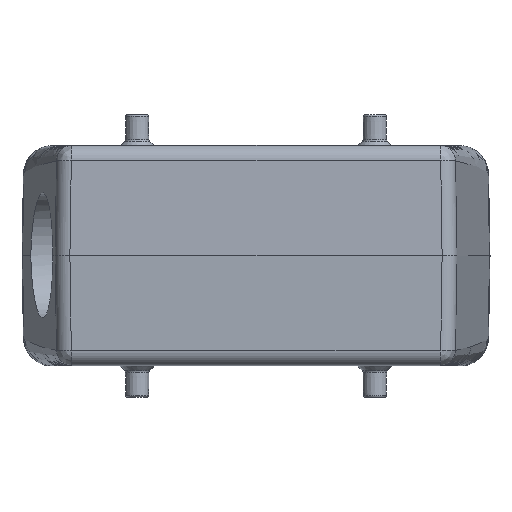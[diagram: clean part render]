
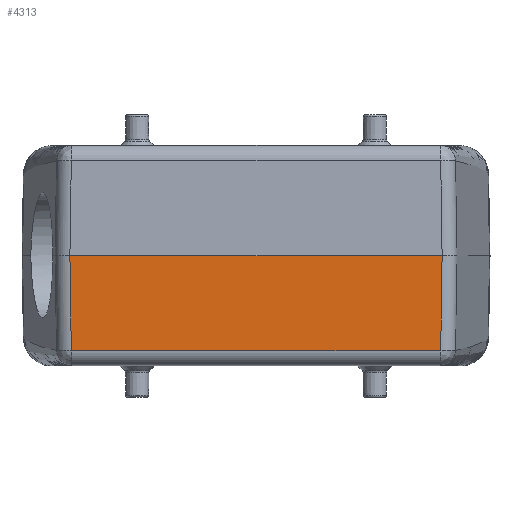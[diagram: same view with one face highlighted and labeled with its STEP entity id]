
A CAD part, top view. The second image highlights one B-rep face of the part: STEP entity #4313.
In plain terms, the highlighted planar face has unit normal (0, -0.018, 1).
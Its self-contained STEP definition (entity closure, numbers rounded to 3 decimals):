
#4 = ORIENTED_EDGE ( 'NONE', *, *, #6830, .T. ) ;
#45 = B_SPLINE_CURVE_WITH_KNOTS ( 'NONE', 3,
 ( #5857, #18207, #22072, #7959 ),
 .UNSPECIFIED., .F., .F.,
 ( 4, 4 ),
 ( 0., 1. ),
 .UNSPECIFIED. ) ;
#254 = ORIENTED_EDGE ( 'NONE', *, *, #22331, .F. ) ;
#989 = CARTESIAN_POINT ( 'NONE',  ( -36.902, -18.959, 59.669 ) ) ;
#2044 = EDGE_CURVE ( 'NONE', #3398, #3868, #12072, .T. ) ;
#2690 = CARTESIAN_POINT ( 'NONE',  ( -36.888, -18.99, 59.669 ) ) ;
#3398 = VERTEX_POINT ( 'NONE', #16849 ) ;
#3450 = EDGE_LOOP ( 'NONE', ( #14519, #4, #15285, #9480, #254, #13483 ) ) ;
#3682 = DIRECTION ( 'NONE',  ( -0.015, -1., -0.017 ) ) ;
#3868 = VERTEX_POINT ( 'NONE', #21624 ) ;
#4313 = ADVANCED_FACE ( 'NONE', ( #7599 ), #18002, .T. ) ;
#5211 = CARTESIAN_POINT ( 'NONE',  ( 36.903, -18.917, 59.67 ) ) ;
#5316 = CARTESIAN_POINT ( 'NONE',  ( 37.18, 0., 60. ) ) ;
#5348 = CARTESIAN_POINT ( 'NONE',  ( -66.197, 0., 60. ) ) ;
#5857 = CARTESIAN_POINT ( 'NONE',  ( -36.903, -18.923, 59.67 ) ) ;
#5924 = CARTESIAN_POINT ( 'NONE',  ( 37.18, 0., 60. ) ) ;
#6401 = VERTEX_POINT ( 'NONE', #15209 ) ;
#6830 = EDGE_CURVE ( 'NONE', #3868, #6401, #8778, .T. ) ;
#7121 = CARTESIAN_POINT ( 'NONE',  ( -66.197, -19.052, 59.667 ) ) ;
#7599 = FACE_OUTER_BOUND ( 'NONE', #3450, .T. ) ;
#7959 = CARTESIAN_POINT ( 'NONE',  ( -37.18, 0., 60. ) ) ;
#8206 = EDGE_CURVE ( 'NONE', #10004, #3398, #9522, .T. ) ;
#8686 = CARTESIAN_POINT ( 'NONE',  ( 36.835, -19.039, 59.668 ) ) ;
#8778 = B_SPLINE_CURVE_WITH_KNOTS ( 'NONE', 3,
 ( #17465, #10546, #8686, #10476, #14029, #5211 ),
 .UNSPECIFIED., .F., .F.,
 ( 4, 2, 4 ),
 ( 0., 0.5, 1. ),
 .UNSPECIFIED. ) ;
#8984 = CARTESIAN_POINT ( 'NONE',  ( -36.903, -18.923, 59.67 ) ) ;
#9480 = ORIENTED_EDGE ( 'NONE', *, *, #15924, .T. ) ;
#9522 = B_SPLINE_CURVE_WITH_KNOTS ( 'NONE', 3,
 ( #18528, #989, #2690, #9742, #20205, #22082 ),
 .UNSPECIFIED., .F., .F.,
 ( 4, 2, 4 ),
 ( 0., 0.5, 1. ),
 .UNSPECIFIED. ) ;
#9742 = CARTESIAN_POINT ( 'NONE',  ( -36.838, -19.04, 59.668 ) ) ;
#10004 = VERTEX_POINT ( 'NONE', #8984 ) ;
#10314 = VECTOR ( 'NONE', #15488, 1000. ) ;
#10476 = CARTESIAN_POINT ( 'NONE',  ( 36.888, -18.987, 59.669 ) ) ;
#10546 = CARTESIAN_POINT ( 'NONE',  ( 36.802, -19.052, 59.667 ) ) ;
#10748 = DIRECTION ( 'NONE',  ( 1., 0., 0. ) ) ;
#11273 = VECTOR ( 'NONE', #10748, 1000. ) ;
#12072 = LINE ( 'NONE', #7121, #11273 ) ;
#12636 = VERTEX_POINT ( 'NONE', #19038 ) ;
#13483 = ORIENTED_EDGE ( 'NONE', *, *, #8206, .T. ) ;
#13579 = LINE ( 'NONE', #5316, #19362 ) ;
#13874 = CARTESIAN_POINT ( 'NONE',  ( -66.197, 0., 60. ) ) ;
#14029 = CARTESIAN_POINT ( 'NONE',  ( 36.902, -18.955, 59.669 ) ) ;
#14519 = ORIENTED_EDGE ( 'NONE', *, *, #2044, .T. ) ;
#15043 = LINE ( 'NONE', #13874, #10314 ) ;
#15209 = CARTESIAN_POINT ( 'NONE',  ( 36.903, -18.917, 59.67 ) ) ;
#15285 = ORIENTED_EDGE ( 'NONE', *, *, #18500, .F. ) ;
#15488 = DIRECTION ( 'NONE',  ( -1., 0., 0. ) ) ;
#15924 = EDGE_CURVE ( 'NONE', #17061, #12636, #15043, .T. ) ;
#16512 = AXIS2_PLACEMENT_3D ( 'NONE', #5348, #20167, #18089 ) ;
#16849 = CARTESIAN_POINT ( 'NONE',  ( -36.771, -19.052, 59.667 ) ) ;
#17061 = VERTEX_POINT ( 'NONE', #5924 ) ;
#17465 = CARTESIAN_POINT ( 'NONE',  ( 36.765, -19.052, 59.667 ) ) ;
#18002 = PLANE ( 'NONE',  #16512 ) ;
#18089 = DIRECTION ( 'NONE',  ( 0., -1., -0.017 ) ) ;
#18207 = CARTESIAN_POINT ( 'NONE',  ( -36.995, -12.616, 59.78 ) ) ;
#18500 = EDGE_CURVE ( 'NONE', #17061, #6401, #13579, .T. ) ;
#18528 = CARTESIAN_POINT ( 'NONE',  ( -36.903, -18.923, 59.67 ) ) ;
#19038 = CARTESIAN_POINT ( 'NONE',  ( -37.18, 0., 60. ) ) ;
#19362 = VECTOR ( 'NONE', #3682, 1000. ) ;
#20167 = DIRECTION ( 'NONE',  ( 0., -0.017, 1. ) ) ;
#20205 = CARTESIAN_POINT ( 'NONE',  ( -36.808, -19.052, 59.667 ) ) ;
#21624 = CARTESIAN_POINT ( 'NONE',  ( 36.765, -19.052, 59.667 ) ) ;
#22072 = CARTESIAN_POINT ( 'NONE',  ( -37.088, -6.308, 59.89 ) ) ;
#22082 = CARTESIAN_POINT ( 'NONE',  ( -36.771, -19.052, 59.667 ) ) ;
#22331 = EDGE_CURVE ( 'NONE', #10004, #12636, #45, .T. ) ;
